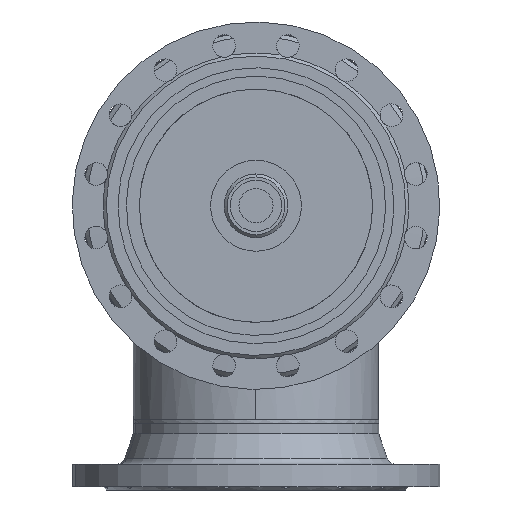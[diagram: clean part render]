
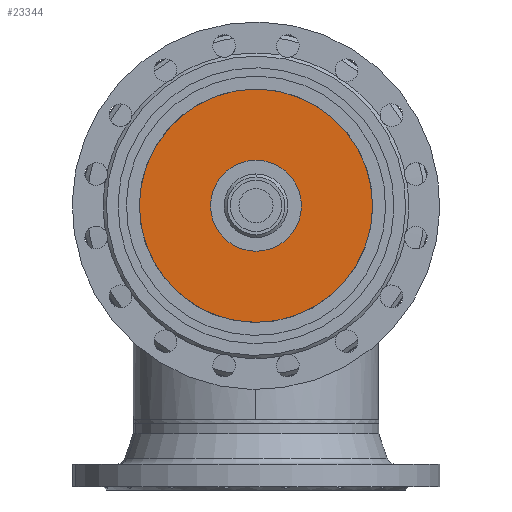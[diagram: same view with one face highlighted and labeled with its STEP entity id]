
A CAD part, front view. The second image highlights one B-rep face of the part: STEP entity #23344.
In plain terms, the highlighted planar face has unit normal (0, -1, 0).
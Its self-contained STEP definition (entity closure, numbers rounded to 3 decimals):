
#497 = CIRCLE ( 'NONE', #498, 169. ) ;
#498 = AXIS2_PLACEMENT_3D ( 'NONE', #499, #500, #501 ) ;
#499 = CARTESIAN_POINT ( 'NONE',  ( 0., -58., 0. ) ) ;
#500 = DIRECTION ( 'NONE',  ( 0., -1., 0. ) ) ;
#501 = DIRECTION ( 'NONE',  ( 0., 0., -1. ) ) ;
#17075 = CIRCLE ( 'NONE', #17076, 60. ) ;
#17076 = AXIS2_PLACEMENT_3D ( 'NONE', #17077, #17079, #17080 ) ;
#17077 = CARTESIAN_POINT ( 'NONE',  ( 0., -58., 0. ) ) ;
#17079 = DIRECTION ( 'NONE',  ( 0., -1., 0. ) ) ;
#17080 = DIRECTION ( 'NONE',  ( 0., 0., -1. ) ) ;
#18633 = ORIENTED_EDGE ( 'NONE', *, *, #14303, .T. ) ;
#19175 = ORIENTED_EDGE ( 'NONE', *, *, #13463, .T. ) ;
#19723 = EDGE_LOOP ( 'NONE', ( #19175, #18633 ) ) ;
#20182 = ORIENTED_EDGE ( 'NONE', *, *, #25055, .F. ) ;
#21174 = EDGE_CURVE ( 'NONE', #24627, #26774, #12520, .T. ) ;
#21889 = ORIENTED_EDGE ( 'NONE', *, *, #21174, .F. ) ;
#22023 = CIRCLE ( 'NONE', #22024, 169. ) ;
#22024 = AXIS2_PLACEMENT_3D ( 'NONE', #22025, #22026, #22027 ) ;
#22025 = CARTESIAN_POINT ( 'NONE',  ( 0., -58., 0. ) ) ;
#22026 = DIRECTION ( 'NONE',  ( 0., -1., 0. ) ) ;
#22027 = DIRECTION ( 'NONE',  ( 0., 0., -1. ) ) ;
#22883 = EDGE_LOOP ( 'NONE', ( #21889, #20182 ) ) ;
#23344 = ADVANCED_FACE ( 'NONE', ( #14574, #14575 ), #14576, .T. ) ;
#24627 = VERTEX_POINT ( 'NONE', #15544 ) ;
#25055 = EDGE_CURVE ( 'NONE', #26774, #24627, #17075, .T. ) ;
#26774 = VERTEX_POINT ( 'NONE', #26941 ) ;
#26941 = CARTESIAN_POINT ( 'NONE',  ( 0., -58., 60. ) ) ;
#27615 = CARTESIAN_POINT ( 'NONE',  ( 0., -58., 169. ) ) ;
#28145 = CARTESIAN_POINT ( 'NONE',  ( 0., -58., -169. ) ) ;
#12520 = CIRCLE ( 'NONE', #12521, 60. ) ;
#12521 = AXIS2_PLACEMENT_3D ( 'NONE', #12522, #12523, #12524 ) ;
#12522 = CARTESIAN_POINT ( 'NONE',  ( 0., -58., 0. ) ) ;
#12523 = DIRECTION ( 'NONE',  ( 0., -1., 0. ) ) ;
#12524 = DIRECTION ( 'NONE',  ( 0., 0., -1. ) ) ;
#13463 = EDGE_CURVE ( 'NONE', #13837, #14077, #22023, .T. ) ;
#13837 = VERTEX_POINT ( 'NONE', #27615 ) ;
#14077 = VERTEX_POINT ( 'NONE', #28145 ) ;
#14303 = EDGE_CURVE ( 'NONE', #14077, #13837, #497, .T. ) ;
#14574 = FACE_BOUND ( 'NONE', #22883, .T. ) ;
#14575 = FACE_OUTER_BOUND ( 'NONE', #19723, .T. ) ;
#14576 = PLANE ( 'NONE',  #14580 ) ;
#14580 = AXIS2_PLACEMENT_3D ( 'NONE', #14581, #14582, #14583 ) ;
#14581 = CARTESIAN_POINT ( 'NONE',  ( 0., -58., 0. ) ) ;
#14582 = DIRECTION ( 'NONE',  ( 0., -1., 0. ) ) ;
#14583 = DIRECTION ( 'NONE',  ( 0., 0., -1. ) ) ;
#15544 = CARTESIAN_POINT ( 'NONE',  ( 0., -58., -60. ) ) ;
